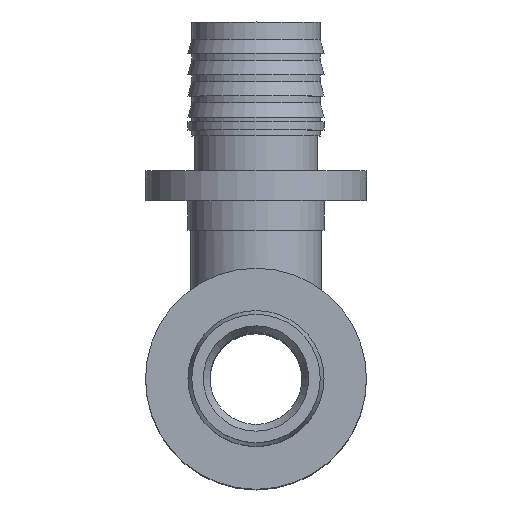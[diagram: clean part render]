
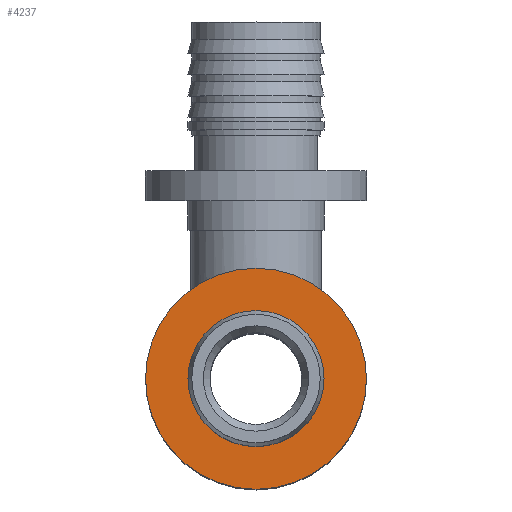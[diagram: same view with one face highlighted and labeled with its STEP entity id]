
A CAD part, top view. The second image highlights one B-rep face of the part: STEP entity #4237.
In plain terms, the highlighted planar face has unit normal (0, 0, 1).
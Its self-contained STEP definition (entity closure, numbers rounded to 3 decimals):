
#159=CIRCLE('',#4523,7.25);
#160=CIRCLE('',#4524,7.25);
#161=CIRCLE('',#4526,13.);
#162=CIRCLE('',#4527,13.);
#250=FACE_BOUND('',#1089,.T.);
#823=FACE_OUTER_BOUND('',#1088,.T.);
#1088=EDGE_LOOP('',(#3753,#3754));
#1089=EDGE_LOOP('',(#3755,#3756));
#2000=VERTEX_POINT('',#9576);
#2001=VERTEX_POINT('',#9577);
#2002=VERTEX_POINT('',#9582);
#2003=VERTEX_POINT('',#9583);
#2609=EDGE_CURVE('',#2000,#2001,#159,.T.);
#2610=EDGE_CURVE('',#2001,#2000,#160,.T.);
#2612=EDGE_CURVE('',#2002,#2003,#161,.T.);
#2613=EDGE_CURVE('',#2003,#2002,#162,.T.);
#3753=ORIENTED_EDGE('',*,*,#2612,.F.);
#3754=ORIENTED_EDGE('',*,*,#2613,.F.);
#3755=ORIENTED_EDGE('',*,*,#2609,.T.);
#3756=ORIENTED_EDGE('',*,*,#2610,.T.);
#4024=PLANE('',#4525);
#4237=ADVANCED_FACE('',(#823,#250),#4024,.T.);
#4523=AXIS2_PLACEMENT_3D('',#9578,#5283,#5284);
#4524=AXIS2_PLACEMENT_3D('',#9579,#5285,#5286);
#4525=AXIS2_PLACEMENT_3D('',#9581,#5288,#5289);
#4526=AXIS2_PLACEMENT_3D('',#9584,#5290,#5291);
#4527=AXIS2_PLACEMENT_3D('',#9585,#5292,#5293);
#5283=DIRECTION('center_axis',(0.,0.,-1.));
#5284=DIRECTION('ref_axis',(1.,0.,0.));
#5285=DIRECTION('center_axis',(0.,0.,-1.));
#5286=DIRECTION('ref_axis',(1.,0.,0.));
#5288=DIRECTION('center_axis',(0.,0.,1.));
#5289=DIRECTION('ref_axis',(1.,0.,0.));
#5290=DIRECTION('center_axis',(0.,0.,-1.));
#5291=DIRECTION('ref_axis',(1.,0.,0.));
#5292=DIRECTION('center_axis',(0.,0.,-1.));
#5293=DIRECTION('ref_axis',(1.,0.,0.));
#9576=CARTESIAN_POINT('',(0.,-7.25,66.5));
#9577=CARTESIAN_POINT('',(0.,7.25,66.5));
#9578=CARTESIAN_POINT('Origin',(0.,0.,66.5));
#9579=CARTESIAN_POINT('Origin',(0.,0.,66.5));
#9581=CARTESIAN_POINT('Origin',(0.,-13.,66.5));
#9582=CARTESIAN_POINT('',(0.,-13.,66.5));
#9583=CARTESIAN_POINT('',(0.,13.,66.5));
#9584=CARTESIAN_POINT('Origin',(0.,0.,66.5));
#9585=CARTESIAN_POINT('Origin',(0.,0.,66.5));
